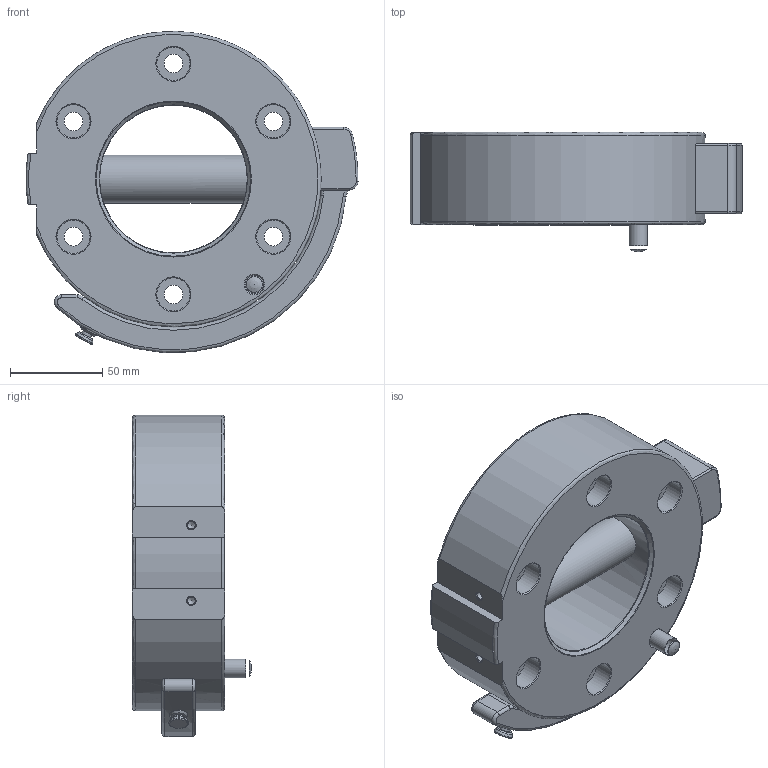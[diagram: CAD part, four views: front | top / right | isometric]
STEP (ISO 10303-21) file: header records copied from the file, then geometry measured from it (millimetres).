
FILE_DESCRIPTION(/* description */ (''),/* implementation_level */ '2;1');
FILE_NAME(/* name */ '\\DC01\Daten\CAD\Standard\Daten\3D-Datenbank\Webseite 2020\SHW\SHW160\G-SHW160-2OE LT.stp',/* time_stamp */ '2020-06-02T09:38:54+02:00',/* author */ ('vbednarz'),/* organization */ (''),/* preprocessor_version */ 'ST-DEVELOPER v17',/* originating_system */ 'Autodesk Inventor 2018',/* authorisation */ '');
FILE_SCHEMA (('AUTOMOTIVE_DESIGN { 1 0 10303 214 3 1 1 }'));
Length unit declared in the file: millimetre
Products named in the file (1): Bauteil10
Bounding box: 179.85 x 64.5 x 174.02 mm (x, y, z)
Volume: 827807.1 mm3; surface area: 99209.6 mm2
Topology: 1 solids, 2 shells, 128 faces, 343 edges, 230 vertices
Faces by surface type: cylinder 43, torus 29, cone 28, plane 26, sphere 2
Full cylindrical faces by diameter (mm): 4.134 x2, 5.58 x1, 6.2 x1, 6.8 x1, 7 x1, 7.8 x1, 10 x3, 10.1 x1, 10.106 x6, 10.6 x1, 18 x6, 26 x1, 80 x1
Entity records: 4620 total; most frequent: CARTESIAN_POINT 1038, DIRECTION 780, ORIENTED_EDGE 676, AXIS2_PLACEMENT_3D 341, EDGE_CURVE 338, VERTEX_POINT 230, CIRCLE 212, EDGE_LOOP 162
